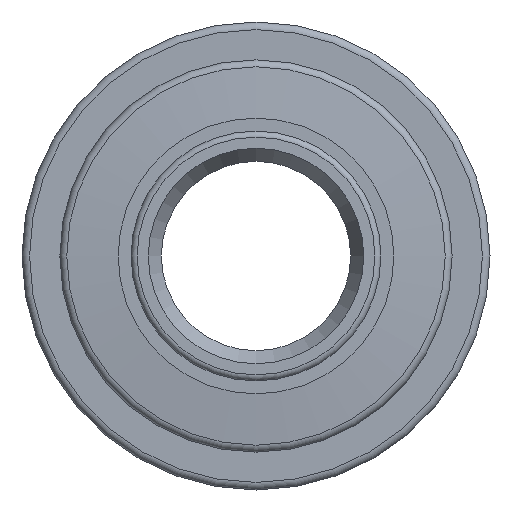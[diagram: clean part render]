
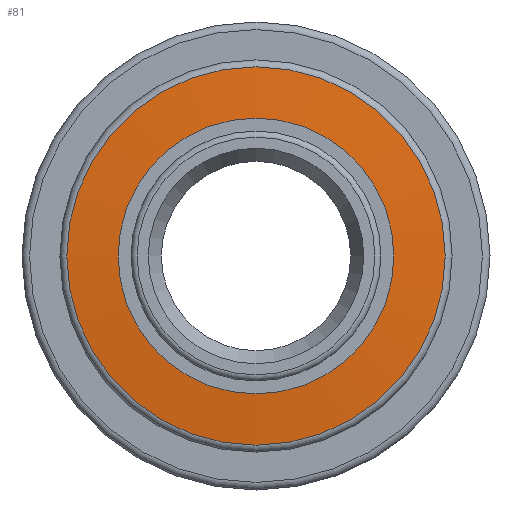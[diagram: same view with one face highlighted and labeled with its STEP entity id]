
A CAD part, front view. The second image highlights one B-rep face of the part: STEP entity #81.
In plain terms, the highlighted conical face has half-angle 85 degrees and reference radius 10.628 mm.
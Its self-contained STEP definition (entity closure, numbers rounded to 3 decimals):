
#81=ADVANCED_FACE('',(#464,#466),#468,.T.);
#464=FACE_OUTER_BOUND('',#465,.T.);
#465=EDGE_LOOP('',(#988));
#466=FACE_OUTER_BOUND('',#467,.T.);
#467=EDGE_LOOP('',(#989));
#468=CONICAL_SURFACE('',#469,10.628,1.484);
#469=AXIS2_PLACEMENT_3D('',#470,#471,#472);
#470=CARTESIAN_POINT('',(0.,-6.703,0.));
#471=DIRECTION('',(0.,1.,0.));
#472=DIRECTION('',(1.,0.,0.));
#988=ORIENTED_EDGE('',*,*,#1156,.F.);
#989=ORIENTED_EDGE('',*,*,#1157,.T.);
#1156=EDGE_CURVE('',#1311,#1311,#1312,.T.);
#1157=EDGE_CURVE('',#1313,#1313,#1314,.F.);
#1311=VERTEX_POINT('',#1689);
#1312=CIRCLE('',#1690,8.763);
#1313=VERTEX_POINT('',#1694);
#1314=CIRCLE('',#1695,12.494);
#1689=CARTESIAN_POINT('',(-8.763,-6.866,0.));
#1690=AXIS2_PLACEMENT_3D('',#1691,#1692,#1693);
#1691=CARTESIAN_POINT('',(0.,-6.866,0.));
#1692=DIRECTION('',(0.,-1.,0.));
#1693=DIRECTION('',(-1.,0.,0.));
#1694=CARTESIAN_POINT('',(-12.494,-6.54,0.));
#1695=AXIS2_PLACEMENT_3D('',#1696,#1697,#1698);
#1696=CARTESIAN_POINT('',(0.,-6.54,0.));
#1697=DIRECTION('',(0.,1.,0.));
#1698=DIRECTION('',(-1.,0.,0.));
